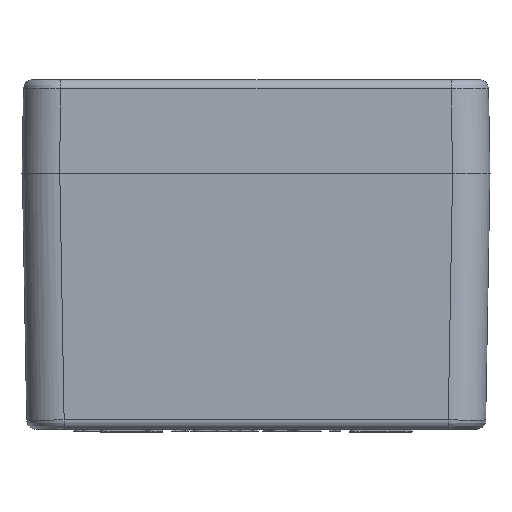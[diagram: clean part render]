
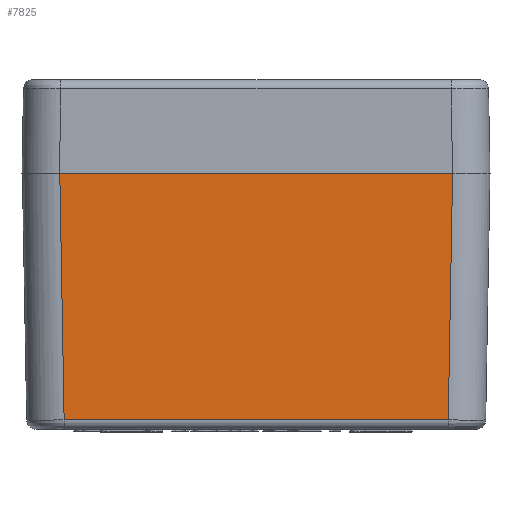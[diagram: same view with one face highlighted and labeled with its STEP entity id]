
A CAD part, left-side view. The second image highlights one B-rep face of the part: STEP entity #7825.
In plain terms, the highlighted planar face has unit normal (-1, 0, -0.018).
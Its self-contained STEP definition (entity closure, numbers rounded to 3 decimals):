
#114 = DIRECTION ( 'NONE',  ( -0.017, 0., 1. ) ) ;
#1139 = ORIENTED_EDGE ( 'NONE', *, *, #33992, .F. ) ;
#1806 = CARTESIAN_POINT ( 'NONE',  ( -54.97, 31.471, -15. ) ) ;
#2173 = VECTOR ( 'NONE', #15887, 1000. ) ;
#2630 = CARTESIAN_POINT ( 'NONE',  ( -55., 37.5, -13.3 ) ) ;
#3118 = LINE ( 'NONE', #1806, #2173 ) ;
#3898 = ORIENTED_EDGE ( 'NONE', *, *, #30089, .T. ) ;
#4344 = DIRECTION ( 'NONE',  ( 0., 1., 0. ) ) ;
#5902 = VERTEX_POINT ( 'NONE', #32604 ) ;
#7825 = ADVANCED_FACE ( 'NONE', ( #23540 ), #38512, .T. ) ;
#10022 = CARTESIAN_POINT ( 'NONE',  ( -54.97, 37.5, -15. ) ) ;
#10199 = LINE ( 'NONE', #24884, #31352 ) ;
#11102 = DIRECTION ( 'NONE',  ( 0., 1., 0. ) ) ;
#12926 = DIRECTION ( 'NONE',  ( 0.017, 0.017, -1. ) ) ;
#13726 = AXIS2_PLACEMENT_3D ( 'NONE', #2630, #33498, #114 ) ;
#14459 = CARTESIAN_POINT ( 'NONE',  ( -54.28, -30.781, -54.526 ) ) ;
#15887 = DIRECTION ( 'NONE',  ( 0.017, -0.017, -1. ) ) ;
#16558 = EDGE_CURVE ( 'NONE', #33070, #29762, #10199, .T. ) ;
#18141 = VECTOR ( 'NONE', #4344, 1000. ) ;
#19093 = EDGE_CURVE ( 'NONE', #33070, #5902, #26126, .T. ) ;
#19489 = LINE ( 'NONE', #26186, #36841 ) ;
#22198 = CARTESIAN_POINT ( 'NONE',  ( -54.97, -31.471, -15. ) ) ;
#23540 = FACE_OUTER_BOUND ( 'NONE', #35678, .T. ) ;
#24884 = CARTESIAN_POINT ( 'NONE',  ( -54.979, -31.48, -14.504 ) ) ;
#26126 = LINE ( 'NONE', #10022, #18141 ) ;
#26186 = CARTESIAN_POINT ( 'NONE',  ( -54.28, 37.5, -54.526 ) ) ;
#29762 = VERTEX_POINT ( 'NONE', #14459 ) ;
#30043 = ORIENTED_EDGE ( 'NONE', *, *, #19093, .T. ) ;
#30089 = EDGE_CURVE ( 'NONE', #5902, #35781, #3118, .T. ) ;
#31352 = VECTOR ( 'NONE', #12926, 1000. ) ;
#32604 = CARTESIAN_POINT ( 'NONE',  ( -54.97, 31.471, -15. ) ) ;
#33070 = VERTEX_POINT ( 'NONE', #22198 ) ;
#33498 = DIRECTION ( 'NONE',  ( -1., 0., -0.017 ) ) ;
#33992 = EDGE_CURVE ( 'NONE', #29762, #35781, #19489, .T. ) ;
#34149 = CARTESIAN_POINT ( 'NONE',  ( -54.28, 30.781, -54.526 ) ) ;
#35678 = EDGE_LOOP ( 'NONE', ( #36664, #30043, #3898, #1139 ) ) ;
#35781 = VERTEX_POINT ( 'NONE', #34149 ) ;
#36664 = ORIENTED_EDGE ( 'NONE', *, *, #16558, .F. ) ;
#36841 = VECTOR ( 'NONE', #11102, 1000. ) ;
#38512 = PLANE ( 'NONE',  #13726 ) ;
